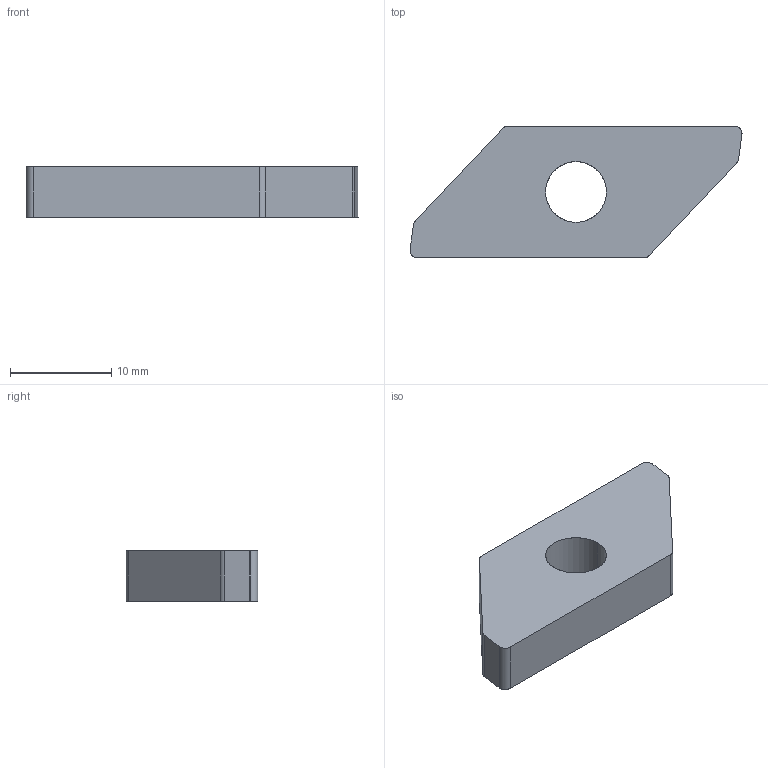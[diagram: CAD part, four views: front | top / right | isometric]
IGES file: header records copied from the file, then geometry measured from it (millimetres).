
Start section: SolidWorks IGES file using analytic representation for surfaces
Global section: file name: C:\Documents and Settings\URETIM3\Desktop\yeni katalog tolgay düzenli\C kataloðu\baklava dilimli kanal somunu\766 011 005.IGS; native system: SolidWorks 2006 by SolidWorks Corporation; preprocessor: SolidWorks 2006 by SolidWorks Corporation; author: URETIM3; date: 060912.110615; units: millimetre
Bounding box: 32.77 x 13 x 5 mm (x, y, z)
Surface area: 1097.7 mm2 (no closed solid volume)
Topology: 0 solids, 0 shells, 17 faces, 186 edges, 186 vertices
Faces by surface type: revolution 9, bspline 8
